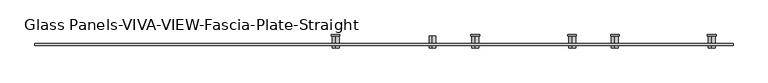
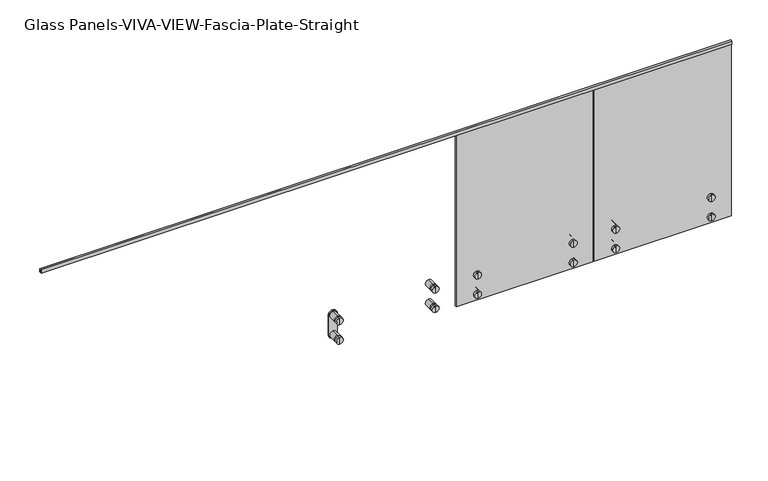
"""IFC4 building model written with IfcOpenShell, lengths in millimetres: railing geometry, Glass Panels-VIVA-VIEW-Fascia-Plate-Straight."""

from ifc_helpers import new_model, si_unit, point, frame, frame_2d, origin, place, context, project, spatial, polyline, circle_curve, trimmed, segment, composite_curve, outline, extrude, source, transform, mapped, element, save
from ifc_brep_helpers import plane_surface, cylinder_surface, advanced_brep


def glass_panels_viva_view_fascia_plate_straight_96c94eb8(model_context):
    return source(origin(), model_context, "Body", "SolidModel", [
        extrude(outline(polyline([(-11437.3344585, 4140.2), (-11437.3344585, 4114.8), (-11438.9219585, 4114.8), (-11438.9219585, 4138.6125), (-11451.6219585, 4138.6125), (-11451.6219585, 4114.8), (-11453.2094585, 4114.8), (-11453.2094585, 4140.2), (-11437.3344585, 4140.2)])), frame((37756.3266433, 0.0, 0.0), z_axis=(1.0, 0.0, 0.0), x_axis=(0.0, 1.0, 0.0)), (0.0, 0.0, 1.0), 5130.8),
        advanced_brep(
        [(42018.8296899, -11469.0841646, 2794.0), (42018.8296899, -11469.0841646, 2844.8), (42018.8296899, -11469.0841646, 2819.4), (42018.8296899, -11451.6216646, 2794.0), (42018.8296899, -11451.6216646, 2844.8), (42018.8296899, -11451.6216646, 2813.685), (42018.8296899, -11451.6216646, 2825.115), (42018.8296899, -11438.9216646, 2813.685), (42018.8296899, -11438.9216646, 2825.115), (42018.8296899, -11438.9216646, 2794.0), (42018.8296899, -11438.9216646, 2844.8), (42018.8296899, -11381.7718115, 2794.0), (42018.8296899, -11381.7718115, 2844.8), (42018.8296899, -11381.7718115, 2819.4)],
        [
            (0, 1, circle_curve(frame((42018.8296899, -11469.0841646, 2819.4), z_axis=(0.0, -1.0, 0.0), x_axis=(0.0, 0.0, 1.0)), 25.4)),
            (1, 2),
            (2, 0),
            (1, 0, circle_curve(frame((42018.8296899, -11469.0841646, 2819.4), z_axis=(0.0, -1.0, 0.0), x_axis=(0.0, 0.0, 1.0)), 25.4)),
            (3, 4, circle_curve(frame((42018.8296899, -11451.6216646, 2819.4), z_axis=(0.0, -1.0, 0.0), x_axis=(0.0, 0.0, 1.0)), 25.4)),
            (4, 1),
            (0, 3),
            (4, 3, circle_curve(frame((42018.8296899, -11451.6216646, 2819.4), z_axis=(0.0, -1.0, 0.0), x_axis=(0.0, 0.0, 1.0)), 25.4)),
            (5, 6, circle_curve(frame((42018.8296899, -11451.6216646, 2819.4), z_axis=(0.0, -1.0, 0.0), x_axis=(0.0, 0.0, 1.0)), 5.715)),
            (6, 4),
            (3, 5),
            (6, 5, circle_curve(frame((42018.8296899, -11451.6216646, 2819.4), z_axis=(0.0, -1.0, 0.0), x_axis=(0.0, 0.0, 1.0)), 5.715)),
            (7, 8, circle_curve(frame((42018.8296899, -11438.9216646, 2819.4), z_axis=(0.0, -1.0, 0.0), x_axis=(0.0, 0.0, 1.0)), 5.715)),
            (8, 6),
            (5, 7),
            (8, 7, circle_curve(frame((42018.8296899, -11438.9216646, 2819.4), z_axis=(0.0, -1.0, 0.0), x_axis=(0.0, 0.0, 1.0)), 5.715)),
            (9, 10, circle_curve(frame((42018.8296899, -11438.9216646, 2819.4), z_axis=(0.0, -1.0, 0.0), x_axis=(0.0, 0.0, 1.0)), 25.4)),
            (10, 8),
            (7, 9),
            (10, 9, circle_curve(frame((42018.8296899, -11438.9216646, 2819.4), z_axis=(0.0, -1.0, 0.0), x_axis=(0.0, 0.0, 1.0)), 25.4)),
            (11, 12, circle_curve(frame((42018.8296899, -11381.7718115, 2819.4), z_axis=(0.0, -1.0, 0.0), x_axis=(0.0, 0.0, 1.0)), 25.4)),
            (12, 10),
            (9, 11),
            (12, 11, circle_curve(frame((42018.8296899, -11381.7718115, 2819.4), z_axis=(0.0, -1.0, 0.0), x_axis=(0.0, 0.0, 1.0)), 25.4)),
            (13, 12),
            (11, 13),
        ],
        [
            plane_surface(frame((42018.8296899, -11469.0841646, 2819.4), z_axis=(0.0, -1.0, 0.0), x_axis=(0.0, 0.0, 1.0))),
            cylinder_surface(frame((42018.8296899, -11537.3468115, 2819.4), z_axis=(0.0, 1.0, 0.0), x_axis=(0.0, 0.0, 1.0)), 25.4),
            plane_surface(frame((42018.8296899, -11451.6216646, 2819.4), z_axis=(0.0, 1.0, 0.0), x_axis=(0.0, 0.0, 1.0))),
            cylinder_surface(frame((42018.8296899, -11537.3468115, 2819.4), z_axis=(0.0, 1.0, 0.0), x_axis=(0.0, 0.0, 1.0)), 5.715),
            plane_surface(frame((42018.8296899, -11438.9216646, 2819.4), z_axis=(0.0, -1.0, 0.0), x_axis=(0.0, 0.0, 1.0))),
            plane_surface(frame((42018.8296899, -11381.7718115, 2819.4), z_axis=(0.0, 1.0, 0.0), x_axis=(0.0, 0.0, 1.0))),
        ],
        [
            (0, [[1, 2, 3]]),
            (0, [[4, -3, -2]]),
            (1, [[5, 6, -1, 7]]),
            (1, [[8, -7, -4, -6]]),
            (2, [[9, 10, -5, 11]]),
            (2, [[12, -11, -8, -10]]),
            (3, [[13, 14, -9, 15]]),
            (3, [[16, -15, -12, -14]]),
            (4, [[17, 18, -13, 19]]),
            (4, [[20, -19, -16, -18]]),
            (1, [[21, 22, -17, 23]]),
            (1, [[24, -23, -20, -22]]),
            (5, [[25, -21, 26]]),
            (5, [[-26, -24, -25]]),
        ],
    ),
        advanced_brep(
        [(42018.8296899, -11451.6216646, 2966.085), (42018.8296899, -11451.6216646, 2977.515), (42018.8296899, -11451.6216646, 2997.2), (42018.8296899, -11451.6216646, 2946.4), (42018.8296899, -11438.9216646, 2966.085), (42018.8296899, -11438.9216646, 2977.515), (42018.8296899, -11438.9216646, 2946.4), (42018.8296899, -11438.9216646, 2997.2), (42018.8296899, -11381.7718115, 2946.4), (42018.8296899, -11381.7718115, 2997.2), (42018.8296899, -11381.7718115, 2971.8), (42018.8296899, -11469.0841646, 2946.4), (42018.8296899, -11469.0841646, 2997.2), (42018.8296899, -11469.0841646, 2971.8)],
        [
            (0, 1, circle_curve(frame((42018.8296899, -11451.6216646, 2971.8), z_axis=(0.0, -1.0, 0.0), x_axis=(0.0, 0.0, 1.0)), 5.715)),
            (1, 2),
            (2, 3, circle_curve(frame((42018.8296899, -11451.6216646, 2971.8), z_axis=(0.0, 1.0, 0.0), x_axis=(0.0, 0.0, 1.0)), 25.4)),
            (3, 0),
            (1, 0, circle_curve(frame((42018.8296899, -11451.6216646, 2971.8), z_axis=(0.0, -1.0, 0.0), x_axis=(0.0, 0.0, 1.0)), 5.715)),
            (3, 2, circle_curve(frame((42018.8296899, -11451.6216646, 2971.8), z_axis=(0.0, 1.0, 0.0), x_axis=(0.0, 0.0, 1.0)), 25.4)),
            (4, 5, circle_curve(frame((42018.8296899, -11438.9216646, 2971.8), z_axis=(0.0, -1.0, 0.0), x_axis=(0.0, 0.0, 1.0)), 5.715)),
            (5, 1),
            (0, 4),
            (5, 4, circle_curve(frame((42018.8296899, -11438.9216646, 2971.8), z_axis=(0.0, -1.0, 0.0), x_axis=(0.0, 0.0, 1.0)), 5.715)),
            (6, 7, circle_curve(frame((42018.8296899, -11438.9216646, 2971.8), z_axis=(0.0, -1.0, 0.0), x_axis=(0.0, 0.0, 1.0)), 25.4)),
            (7, 5),
            (4, 6),
            (7, 6, circle_curve(frame((42018.8296899, -11438.9216646, 2971.8), z_axis=(0.0, -1.0, 0.0), x_axis=(0.0, 0.0, 1.0)), 25.4)),
            (8, 9, circle_curve(frame((42018.8296899, -11381.7718115, 2971.8), z_axis=(0.0, -1.0, 0.0), x_axis=(0.0, 0.0, 1.0)), 25.4)),
            (9, 7),
            (6, 8),
            (9, 8, circle_curve(frame((42018.8296899, -11381.7718115, 2971.8), z_axis=(0.0, -1.0, 0.0), x_axis=(0.0, 0.0, 1.0)), 25.4)),
            (10, 9),
            (8, 10),
            (11, 12, circle_curve(frame((42018.8296899, -11469.0841646, 2971.8), z_axis=(0.0, -1.0, 0.0), x_axis=(0.0, 0.0, 1.0)), 25.4)),
            (12, 13),
            (13, 11),
            (12, 11, circle_curve(frame((42018.8296899, -11469.0841646, 2971.8), z_axis=(0.0, -1.0, 0.0), x_axis=(0.0, 0.0, 1.0)), 25.4)),
            (2, 12),
            (11, 3),
        ],
        [
            plane_surface(frame((42018.8296899, -11451.6216646, 2971.8), z_axis=(0.0, 1.0, 0.0), x_axis=(0.0, 0.0, 1.0))),
            cylinder_surface(frame((42018.8296899, -11537.3468115, 2971.8), z_axis=(0.0, 1.0, 0.0), x_axis=(0.0, 0.0, 1.0)), 5.715),
            plane_surface(frame((42018.8296899, -11438.9216646, 2971.8), z_axis=(0.0, -1.0, 0.0), x_axis=(0.0, 0.0, 1.0))),
            cylinder_surface(frame((42018.8296899, -11537.3468115, 2971.8), z_axis=(0.0, 1.0, 0.0), x_axis=(0.0, 0.0, 1.0)), 25.4),
            plane_surface(frame((42018.8296899, -11381.7718115, 2971.8), z_axis=(0.0, 1.0, 0.0), x_axis=(0.0, 0.0, 1.0))),
            plane_surface(frame((42018.8296899, -11469.0841646, 2971.8), z_axis=(0.0, -1.0, 0.0), x_axis=(0.0, 0.0, 1.0))),
        ],
        [
            (0, [[1, 2, 3, 4]]),
            (0, [[5, -4, 6, -2]]),
            (1, [[7, 8, -1, 9]]),
            (1, [[10, -9, -5, -8]]),
            (2, [[11, 12, -7, 13]]),
            (2, [[14, -13, -10, -12]]),
            (3, [[15, 16, -11, 17]]),
            (3, [[18, -17, -14, -16]]),
            (4, [[19, -15, 20]]),
            (4, [[-20, -18, -19]]),
            (5, [[21, 22, 23]]),
            (5, [[24, -23, -22]]),
            (3, [[-3, 25, -21, 26]]),
            (3, [[-6, -26, -24, -25]]),
        ],
    ),
        extrude(outline(composite_curve([segment(polyline([(2971.8, 41987.0796899), (2819.4, 41987.0796899)]), True, "CONTINUOUS"), segment(trimmed(circle_curve(frame_2d((2819.4, 42018.8296899)), 31.75), [point((2819.4, 41987.0796899))], [point((2819.4, 42050.5796899))], False, "CARTESIAN"), True, "CONTINUOUS"), segment(polyline([(2819.4, 42050.5796899), (2971.8, 42050.5796899)]), True, "CONTINUOUS"), segment(trimmed(circle_curve(frame_2d((2971.8, 42018.8296899)), 31.75), [point((2971.8, 42050.5796899))], [point((2971.8, 41987.0796899))], False, "CARTESIAN"), True, "CONTINUOUS")], self_intersect=False)), frame((0.0, -11381.7718115, 0.0), z_axis=(0.0, 1.0, 0.0), x_axis=(0.0, 0.0, 1.0)), (0.0, 0.0, 1.0), 9.525),
        advanced_brep(
        [(42730.0296899, -11469.0841646, 2794.0), (42730.0296899, -11469.0841646, 2844.8), (42730.0296899, -11469.0841646, 2819.4), (42730.0296899, -11451.6216646, 2794.0), (42730.0296899, -11451.6216646, 2844.8), (42730.0296899, -11451.6216646, 2813.685), (42730.0296899, -11451.6216646, 2825.115), (42730.0296899, -11438.9216646, 2813.685), (42730.0296899, -11438.9216646, 2825.115), (42730.0296899, -11438.9216646, 2794.0), (42730.0296899, -11438.9216646, 2844.8), (42730.0296899, -11381.7718115, 2794.0), (42730.0296899, -11381.7718115, 2844.8), (42730.0296899, -11381.7718115, 2819.4)],
        [
            (0, 1, circle_curve(frame((42730.0296899, -11469.0841646, 2819.4), z_axis=(0.0, -1.0, 0.0), x_axis=(0.0, 0.0, 1.0)), 25.4)),
            (1, 2),
            (2, 0),
            (1, 0, circle_curve(frame((42730.0296899, -11469.0841646, 2819.4), z_axis=(0.0, -1.0, 0.0), x_axis=(0.0, 0.0, 1.0)), 25.4)),
            (3, 4, circle_curve(frame((42730.0296899, -11451.6216646, 2819.4), z_axis=(0.0, -1.0, 0.0), x_axis=(0.0, 0.0, 1.0)), 25.4)),
            (4, 1),
            (0, 3),
            (4, 3, circle_curve(frame((42730.0296899, -11451.6216646, 2819.4), z_axis=(0.0, -1.0, 0.0), x_axis=(0.0, 0.0, 1.0)), 25.4)),
            (5, 6, circle_curve(frame((42730.0296899, -11451.6216646, 2819.4), z_axis=(0.0, -1.0, 0.0), x_axis=(0.0, 0.0, 1.0)), 5.715)),
            (6, 4),
            (3, 5),
            (6, 5, circle_curve(frame((42730.0296899, -11451.6216646, 2819.4), z_axis=(0.0, -1.0, 0.0), x_axis=(0.0, 0.0, 1.0)), 5.715)),
            (7, 8, circle_curve(frame((42730.0296899, -11438.9216646, 2819.4), z_axis=(0.0, -1.0, 0.0), x_axis=(0.0, 0.0, 1.0)), 5.715)),
            (8, 6),
            (5, 7),
            (8, 7, circle_curve(frame((42730.0296899, -11438.9216646, 2819.4), z_axis=(0.0, -1.0, 0.0), x_axis=(0.0, 0.0, 1.0)), 5.715)),
            (9, 10, circle_curve(frame((42730.0296899, -11438.9216646, 2819.4), z_axis=(0.0, -1.0, 0.0), x_axis=(0.0, 0.0, 1.0)), 25.4)),
            (10, 8),
            (7, 9),
            (10, 9, circle_curve(frame((42730.0296899, -11438.9216646, 2819.4), z_axis=(0.0, -1.0, 0.0), x_axis=(0.0, 0.0, 1.0)), 25.4)),
            (11, 12, circle_curve(frame((42730.0296899, -11381.7718115, 2819.4), z_axis=(0.0, -1.0, 0.0), x_axis=(0.0, 0.0, 1.0)), 25.4)),
            (12, 10),
            (9, 11),
            (12, 11, circle_curve(frame((42730.0296899, -11381.7718115, 2819.4), z_axis=(0.0, -1.0, 0.0), x_axis=(0.0, 0.0, 1.0)), 25.4)),
            (13, 12),
            (11, 13),
        ],
        [
            plane_surface(frame((42730.0296899, -11469.0841646, 2819.4), z_axis=(0.0, -1.0, 0.0), x_axis=(0.0, 0.0, 1.0))),
            cylinder_surface(frame((42730.0296899, -11537.3468115, 2819.4), z_axis=(0.0, 1.0, 0.0), x_axis=(0.0, 0.0, 1.0)), 25.4),
            plane_surface(frame((42730.0296899, -11451.6216646, 2819.4), z_axis=(0.0, 1.0, 0.0), x_axis=(0.0, 0.0, 1.0))),
            cylinder_surface(frame((42730.0296899, -11537.3468115, 2819.4), z_axis=(0.0, 1.0, 0.0), x_axis=(0.0, 0.0, 1.0)), 5.715),
            plane_surface(frame((42730.0296899, -11438.9216646, 2819.4), z_axis=(0.0, -1.0, 0.0), x_axis=(0.0, 0.0, 1.0))),
            plane_surface(frame((42730.0296899, -11381.7718115, 2819.4), z_axis=(0.0, 1.0, 0.0), x_axis=(0.0, 0.0, 1.0))),
        ],
        [
            (0, [[1, 2, 3]]),
            (0, [[4, -3, -2]]),
            (1, [[5, 6, -1, 7]]),
            (1, [[8, -7, -4, -6]]),
            (2, [[9, 10, -5, 11]]),
            (2, [[12, -11, -8, -10]]),
            (3, [[13, 14, -9, 15]]),
            (3, [[16, -15, -12, -14]]),
            (4, [[17, 18, -13, 19]]),
            (4, [[20, -19, -16, -18]]),
            (1, [[21, 22, -17, 23]]),
            (1, [[24, -23, -20, -22]]),
            (5, [[25, -21, 26]]),
            (5, [[-26, -24, -25]]),
        ],
    ),
        advanced_brep(
        [(42730.0296899, -11451.6216646, 2966.085), (42730.0296899, -11451.6216646, 2977.515), (42730.0296899, -11451.6216646, 2997.2), (42730.0296899, -11451.6216646, 2946.4), (42730.0296899, -11438.9216646, 2966.085), (42730.0296899, -11438.9216646, 2977.515), (42730.0296899, -11438.9216646, 2946.4), (42730.0296899, -11438.9216646, 2997.2), (42730.0296899, -11381.7718115, 2946.4), (42730.0296899, -11381.7718115, 2997.2), (42730.0296899, -11381.7718115, 2971.8), (42730.0296899, -11469.0841646, 2946.4), (42730.0296899, -11469.0841646, 2997.2), (42730.0296899, -11469.0841646, 2971.8)],
        [
            (0, 1, circle_curve(frame((42730.0296899, -11451.6216646, 2971.8), z_axis=(0.0, -1.0, 0.0), x_axis=(0.0, 0.0, 1.0)), 5.715)),
            (1, 2),
            (2, 3, circle_curve(frame((42730.0296899, -11451.6216646, 2971.8), z_axis=(0.0, 1.0, 0.0), x_axis=(0.0, 0.0, 1.0)), 25.4)),
            (3, 0),
            (1, 0, circle_curve(frame((42730.0296899, -11451.6216646, 2971.8), z_axis=(0.0, -1.0, 0.0), x_axis=(0.0, 0.0, 1.0)), 5.715)),
            (3, 2, circle_curve(frame((42730.0296899, -11451.6216646, 2971.8), z_axis=(0.0, 1.0, 0.0), x_axis=(0.0, 0.0, 1.0)), 25.4)),
            (4, 5, circle_curve(frame((42730.0296899, -11438.9216646, 2971.8), z_axis=(0.0, -1.0, 0.0), x_axis=(0.0, 0.0, 1.0)), 5.715)),
            (5, 1),
            (0, 4),
            (5, 4, circle_curve(frame((42730.0296899, -11438.9216646, 2971.8), z_axis=(0.0, -1.0, 0.0), x_axis=(0.0, 0.0, 1.0)), 5.715)),
            (6, 7, circle_curve(frame((42730.0296899, -11438.9216646, 2971.8), z_axis=(0.0, -1.0, 0.0), x_axis=(0.0, 0.0, 1.0)), 25.4)),
            (7, 5),
            (4, 6),
            (7, 6, circle_curve(frame((42730.0296899, -11438.9216646, 2971.8), z_axis=(0.0, -1.0, 0.0), x_axis=(0.0, 0.0, 1.0)), 25.4)),
            (8, 9, circle_curve(frame((42730.0296899, -11381.7718115, 2971.8), z_axis=(0.0, -1.0, 0.0), x_axis=(0.0, 0.0, 1.0)), 25.4)),
            (9, 7),
            (6, 8),
            (9, 8, circle_curve(frame((42730.0296899, -11381.7718115, 2971.8), z_axis=(0.0, -1.0, 0.0), x_axis=(0.0, 0.0, 1.0)), 25.4)),
            (10, 9),
            (8, 10),
            (11, 12, circle_curve(frame((42730.0296899, -11469.0841646, 2971.8), z_axis=(0.0, -1.0, 0.0), x_axis=(0.0, 0.0, 1.0)), 25.4)),
            (12, 13),
            (13, 11),
            (12, 11, circle_curve(frame((42730.0296899, -11469.0841646, 2971.8), z_axis=(0.0, -1.0, 0.0), x_axis=(0.0, 0.0, 1.0)), 25.4)),
            (2, 12),
            (11, 3),
        ],
        [
            plane_surface(frame((42730.0296899, -11451.6216646, 2971.8), z_axis=(0.0, 1.0, 0.0), x_axis=(0.0, 0.0, 1.0))),
            cylinder_surface(frame((42730.0296899, -11537.3468115, 2971.8), z_axis=(0.0, 1.0, 0.0), x_axis=(0.0, 0.0, 1.0)), 5.715),
            plane_surface(frame((42730.0296899, -11438.9216646, 2971.8), z_axis=(0.0, -1.0, 0.0), x_axis=(0.0, 0.0, 1.0))),
            cylinder_surface(frame((42730.0296899, -11537.3468115, 2971.8), z_axis=(0.0, 1.0, 0.0), x_axis=(0.0, 0.0, 1.0)), 25.4),
            plane_surface(frame((42730.0296899, -11381.7718115, 2971.8), z_axis=(0.0, 1.0, 0.0), x_axis=(0.0, 0.0, 1.0))),
            plane_surface(frame((42730.0296899, -11469.0841646, 2971.8), z_axis=(0.0, -1.0, 0.0), x_axis=(0.0, 0.0, 1.0))),
        ],
        [
            (0, [[1, 2, 3, 4]]),
            (0, [[5, -4, 6, -2]]),
            (1, [[7, 8, -1, 9]]),
            (1, [[10, -9, -5, -8]]),
            (2, [[11, 12, -7, 13]]),
            (2, [[14, -13, -10, -12]]),
            (3, [[15, 16, -11, 17]]),
            (3, [[18, -17, -14, -16]]),
            (4, [[19, -15, 20]]),
            (4, [[-20, -18, -19]]),
            (5, [[21, 22, 23]]),
            (5, [[24, -23, -22]]),
            (3, [[-3, 25, -21, 26]]),
            (3, [[-6, -26, -24, -25]]),
        ],
    ),
        extrude(outline(composite_curve([segment(polyline([(2971.8, 42698.2796899), (2819.4, 42698.2796899)]), True, "CONTINUOUS"), segment(trimmed(circle_curve(frame_2d((2819.4, 42730.0296899)), 31.75), [point((2819.4, 42698.2796899))], [point((2819.4, 42761.7796899))], False, "CARTESIAN"), True, "CONTINUOUS"), segment(polyline([(2819.4, 42761.7796899), (2971.8, 42761.7796899)]), True, "CONTINUOUS"), segment(trimmed(circle_curve(frame_2d((2971.8, 42730.0296899)), 31.75), [point((2971.8, 42761.7796899))], [point((2971.8, 42698.2796899))], False, "CARTESIAN"), True, "CONTINUOUS")], self_intersect=False)), frame((0.0, -11381.7718115, 0.0), z_axis=(0.0, 1.0, 0.0), x_axis=(0.0, 0.0, 1.0)), (0.0, 0.0, 1.0), 9.525),
        extrude(outline(polyline([(41866.4296899, -11438.9219585), (42882.4296899, -11438.9219585), (42882.4296899, -11451.6219585), (41866.4296899, -11451.6219585), (41866.4296899, -11438.9219585)])), frame((0.0, 0.0, 2768.6), z_axis=(0.0, 0.0, 1.0), x_axis=(1.0, 0.0, 0.0)), (0.0, 0.0, 1.0), 1370.0125),
        advanced_brep(
        [(40992.6696899, -11469.0841646, 2794.0), (40992.6696899, -11469.0841646, 2844.8), (40992.6696899, -11469.0841646, 2819.4), (40992.6696899, -11451.6216646, 2794.0), (40992.6696899, -11451.6216646, 2844.8), (40992.6696899, -11451.6216646, 2813.685), (40992.6696899, -11451.6216646, 2825.115), (40992.6696899, -11438.9216646, 2813.685), (40992.6696899, -11438.9216646, 2825.115), (40992.6696899, -11438.9216646, 2794.0), (40992.6696899, -11438.9216646, 2844.8), (40992.6696899, -11381.7718115, 2794.0), (40992.6696899, -11381.7718115, 2844.8), (40992.6696899, -11381.7718115, 2819.4)],
        [
            (0, 1, circle_curve(frame((40992.6696899, -11469.0841646, 2819.4), z_axis=(0.0, -1.0, 0.0), x_axis=(0.0, 0.0, 1.0)), 25.4)),
            (1, 2),
            (2, 0),
            (1, 0, circle_curve(frame((40992.6696899, -11469.0841646, 2819.4), z_axis=(0.0, -1.0, 0.0), x_axis=(0.0, 0.0, 1.0)), 25.4)),
            (3, 4, circle_curve(frame((40992.6696899, -11451.6216646, 2819.4), z_axis=(0.0, -1.0, 0.0), x_axis=(0.0, 0.0, 1.0)), 25.4)),
            (4, 1),
            (0, 3),
            (4, 3, circle_curve(frame((40992.6696899, -11451.6216646, 2819.4), z_axis=(0.0, -1.0, 0.0), x_axis=(0.0, 0.0, 1.0)), 25.4)),
            (5, 6, circle_curve(frame((40992.6696899, -11451.6216646, 2819.4), z_axis=(0.0, -1.0, 0.0), x_axis=(0.0, 0.0, 1.0)), 5.715)),
            (6, 4),
            (3, 5),
            (6, 5, circle_curve(frame((40992.6696899, -11451.6216646, 2819.4), z_axis=(0.0, -1.0, 0.0), x_axis=(0.0, 0.0, 1.0)), 5.715)),
            (7, 8, circle_curve(frame((40992.6696899, -11438.9216646, 2819.4), z_axis=(0.0, -1.0, 0.0), x_axis=(0.0, 0.0, 1.0)), 5.715)),
            (8, 6),
            (5, 7),
            (8, 7, circle_curve(frame((40992.6696899, -11438.9216646, 2819.4), z_axis=(0.0, -1.0, 0.0), x_axis=(0.0, 0.0, 1.0)), 5.715)),
            (9, 10, circle_curve(frame((40992.6696899, -11438.9216646, 2819.4), z_axis=(0.0, -1.0, 0.0), x_axis=(0.0, 0.0, 1.0)), 25.4)),
            (10, 8),
            (7, 9),
            (10, 9, circle_curve(frame((40992.6696899, -11438.9216646, 2819.4), z_axis=(0.0, -1.0, 0.0), x_axis=(0.0, 0.0, 1.0)), 25.4)),
            (11, 12, circle_curve(frame((40992.6696899, -11381.7718115, 2819.4), z_axis=(0.0, -1.0, 0.0), x_axis=(0.0, 0.0, 1.0)), 25.4)),
            (12, 10),
            (9, 11),
            (12, 11, circle_curve(frame((40992.6696899, -11381.7718115, 2819.4), z_axis=(0.0, -1.0, 0.0), x_axis=(0.0, 0.0, 1.0)), 25.4)),
            (13, 12),
            (11, 13),
        ],
        [
            plane_surface(frame((40992.6696899, -11469.0841646, 2819.4), z_axis=(0.0, -1.0, 0.0), x_axis=(0.0, 0.0, 1.0))),
            cylinder_surface(frame((40992.6696899, -11537.3468115, 2819.4), z_axis=(0.0, 1.0, 0.0), x_axis=(0.0, 0.0, 1.0)), 25.4),
            plane_surface(frame((40992.6696899, -11451.6216646, 2819.4), z_axis=(0.0, 1.0, 0.0), x_axis=(0.0, 0.0, 1.0))),
            cylinder_surface(frame((40992.6696899, -11537.3468115, 2819.4), z_axis=(0.0, 1.0, 0.0), x_axis=(0.0, 0.0, 1.0)), 5.715),
            plane_surface(frame((40992.6696899, -11438.9216646, 2819.4), z_axis=(0.0, -1.0, 0.0), x_axis=(0.0, 0.0, 1.0))),
            plane_surface(frame((40992.6696899, -11381.7718115, 2819.4), z_axis=(0.0, 1.0, 0.0), x_axis=(0.0, 0.0, 1.0))),
        ],
        [
            (0, [[1, 2, 3]]),
            (0, [[4, -3, -2]]),
            (1, [[5, 6, -1, 7]]),
            (1, [[8, -7, -4, -6]]),
            (2, [[9, 10, -5, 11]]),
            (2, [[12, -11, -8, -10]]),
            (3, [[13, 14, -9, 15]]),
            (3, [[16, -15, -12, -14]]),
            (4, [[17, 18, -13, 19]]),
            (4, [[20, -19, -16, -18]]),
            (1, [[21, 22, -17, 23]]),
            (1, [[24, -23, -20, -22]]),
            (5, [[25, -21, 26]]),
            (5, [[-26, -24, -25]]),
        ],
    ),
        advanced_brep(
        [(40992.6696899, -11451.6216646, 2966.085), (40992.6696899, -11451.6216646, 2977.515), (40992.6696899, -11451.6216646, 2997.2), (40992.6696899, -11451.6216646, 2946.4), (40992.6696899, -11438.9216646, 2966.085), (40992.6696899, -11438.9216646, 2977.515), (40992.6696899, -11438.9216646, 2946.4), (40992.6696899, -11438.9216646, 2997.2), (40992.6696899, -11381.7718115, 2946.4), (40992.6696899, -11381.7718115, 2997.2), (40992.6696899, -11381.7718115, 2971.8), (40992.6696899, -11469.0841646, 2946.4), (40992.6696899, -11469.0841646, 2997.2), (40992.6696899, -11469.0841646, 2971.8)],
        [
            (0, 1, circle_curve(frame((40992.6696899, -11451.6216646, 2971.8), z_axis=(0.0, -1.0, 0.0), x_axis=(0.0, 0.0, 1.0)), 5.715)),
            (1, 2),
            (2, 3, circle_curve(frame((40992.6696899, -11451.6216646, 2971.8), z_axis=(0.0, 1.0, 0.0), x_axis=(0.0, 0.0, 1.0)), 25.4)),
            (3, 0),
            (1, 0, circle_curve(frame((40992.6696899, -11451.6216646, 2971.8), z_axis=(0.0, -1.0, 0.0), x_axis=(0.0, 0.0, 1.0)), 5.715)),
            (3, 2, circle_curve(frame((40992.6696899, -11451.6216646, 2971.8), z_axis=(0.0, 1.0, 0.0), x_axis=(0.0, 0.0, 1.0)), 25.4)),
            (4, 5, circle_curve(frame((40992.6696899, -11438.9216646, 2971.8), z_axis=(0.0, -1.0, 0.0), x_axis=(0.0, 0.0, 1.0)), 5.715)),
            (5, 1),
            (0, 4),
            (5, 4, circle_curve(frame((40992.6696899, -11438.9216646, 2971.8), z_axis=(0.0, -1.0, 0.0), x_axis=(0.0, 0.0, 1.0)), 5.715)),
            (6, 7, circle_curve(frame((40992.6696899, -11438.9216646, 2971.8), z_axis=(0.0, -1.0, 0.0), x_axis=(0.0, 0.0, 1.0)), 25.4)),
            (7, 5),
            (4, 6),
            (7, 6, circle_curve(frame((40992.6696899, -11438.9216646, 2971.8), z_axis=(0.0, -1.0, 0.0), x_axis=(0.0, 0.0, 1.0)), 25.4)),
            (8, 9, circle_curve(frame((40992.6696899, -11381.7718115, 2971.8), z_axis=(0.0, -1.0, 0.0), x_axis=(0.0, 0.0, 1.0)), 25.4)),
            (9, 7),
            (6, 8),
            (9, 8, circle_curve(frame((40992.6696899, -11381.7718115, 2971.8), z_axis=(0.0, -1.0, 0.0), x_axis=(0.0, 0.0, 1.0)), 25.4)),
            (10, 9),
            (8, 10),
            (11, 12, circle_curve(frame((40992.6696899, -11469.0841646, 2971.8), z_axis=(0.0, -1.0, 0.0), x_axis=(0.0, 0.0, 1.0)), 25.4)),
            (12, 13),
            (13, 11),
            (12, 11, circle_curve(frame((40992.6696899, -11469.0841646, 2971.8), z_axis=(0.0, -1.0, 0.0), x_axis=(0.0, 0.0, 1.0)), 25.4)),
            (2, 12),
            (11, 3),
        ],
        [
            plane_surface(frame((40992.6696899, -11451.6216646, 2971.8), z_axis=(0.0, 1.0, 0.0), x_axis=(0.0, 0.0, 1.0))),
            cylinder_surface(frame((40992.6696899, -11537.3468115, 2971.8), z_axis=(0.0, 1.0, 0.0), x_axis=(0.0, 0.0, 1.0)), 5.715),
            plane_surface(frame((40992.6696899, -11438.9216646, 2971.8), z_axis=(0.0, -1.0, 0.0), x_axis=(0.0, 0.0, 1.0))),
            cylinder_surface(frame((40992.6696899, -11537.3468115, 2971.8), z_axis=(0.0, 1.0, 0.0), x_axis=(0.0, 0.0, 1.0)), 25.4),
            plane_surface(frame((40992.6696899, -11381.7718115, 2971.8), z_axis=(0.0, 1.0, 0.0), x_axis=(0.0, 0.0, 1.0))),
            plane_surface(frame((40992.6696899, -11469.0841646, 2971.8), z_axis=(0.0, -1.0, 0.0), x_axis=(0.0, 0.0, 1.0))),
        ],
        [
            (0, [[1, 2, 3, 4]]),
            (0, [[5, -4, 6, -2]]),
            (1, [[7, 8, -1, 9]]),
            (1, [[10, -9, -5, -8]]),
            (2, [[11, 12, -7, 13]]),
            (2, [[14, -13, -10, -12]]),
            (3, [[15, 16, -11, 17]]),
            (3, [[18, -17, -14, -16]]),
            (4, [[19, -15, 20]]),
            (4, [[-20, -18, -19]]),
            (5, [[21, 22, 23]]),
            (5, [[24, -23, -22]]),
            (3, [[-3, 25, -21, 26]]),
            (3, [[-6, -26, -24, -25]]),
        ],
    ),
        extrude(outline(composite_curve([segment(polyline([(2971.8, 40960.9196899), (2819.4, 40960.9196899)]), True, "CONTINUOUS"), segment(trimmed(circle_curve(frame_2d((2819.4, 40992.6696899)), 31.75), [point((2819.4, 40960.9196899))], [point((2819.4, 41024.4196899))], False, "CARTESIAN"), True, "CONTINUOUS"), segment(polyline([(2819.4, 41024.4196899), (2971.8, 41024.4196899)]), True, "CONTINUOUS"), segment(trimmed(circle_curve(frame_2d((2971.8, 40992.6696899)), 31.75), [point((2971.8, 41024.4196899))], [point((2971.8, 40960.9196899))], False, "CARTESIAN"), True, "CONTINUOUS")], self_intersect=False)), frame((0.0, -11381.7718115, 0.0), z_axis=(0.0, 1.0, 0.0), x_axis=(0.0, 0.0, 1.0)), (0.0, 0.0, 1.0), 9.525),
        advanced_brep(
        [(41703.8696899, -11469.0841646, 2794.0), (41703.8696899, -11469.0841646, 2844.8), (41703.8696899, -11469.0841646, 2819.4), (41703.8696899, -11451.6216646, 2794.0), (41703.8696899, -11451.6216646, 2844.8), (41703.8696899, -11451.6216646, 2813.685), (41703.8696899, -11451.6216646, 2825.115), (41703.8696899, -11438.9216646, 2813.685), (41703.8696899, -11438.9216646, 2825.115), (41703.8696899, -11438.9216646, 2794.0), (41703.8696899, -11438.9216646, 2844.8), (41703.8696899, -11381.7718115, 2794.0), (41703.8696899, -11381.7718115, 2844.8), (41703.8696899, -11381.7718115, 2819.4)],
        [
            (0, 1, circle_curve(frame((41703.8696899, -11469.0841646, 2819.4), z_axis=(0.0, -1.0, 0.0), x_axis=(0.0, 0.0, 1.0)), 25.4)),
            (1, 2),
            (2, 0),
            (1, 0, circle_curve(frame((41703.8696899, -11469.0841646, 2819.4), z_axis=(0.0, -1.0, 0.0), x_axis=(0.0, 0.0, 1.0)), 25.4)),
            (3, 4, circle_curve(frame((41703.8696899, -11451.6216646, 2819.4), z_axis=(0.0, -1.0, 0.0), x_axis=(0.0, 0.0, 1.0)), 25.4)),
            (4, 1),
            (0, 3),
            (4, 3, circle_curve(frame((41703.8696899, -11451.6216646, 2819.4), z_axis=(0.0, -1.0, 0.0), x_axis=(0.0, 0.0, 1.0)), 25.4)),
            (5, 6, circle_curve(frame((41703.8696899, -11451.6216646, 2819.4), z_axis=(0.0, -1.0, 0.0), x_axis=(0.0, 0.0, 1.0)), 5.715)),
            (6, 4),
            (3, 5),
            (6, 5, circle_curve(frame((41703.8696899, -11451.6216646, 2819.4), z_axis=(0.0, -1.0, 0.0), x_axis=(0.0, 0.0, 1.0)), 5.715)),
            (7, 8, circle_curve(frame((41703.8696899, -11438.9216646, 2819.4), z_axis=(0.0, -1.0, 0.0), x_axis=(0.0, 0.0, 1.0)), 5.715)),
            (8, 6),
            (5, 7),
            (8, 7, circle_curve(frame((41703.8696899, -11438.9216646, 2819.4), z_axis=(0.0, -1.0, 0.0), x_axis=(0.0, 0.0, 1.0)), 5.715)),
            (9, 10, circle_curve(frame((41703.8696899, -11438.9216646, 2819.4), z_axis=(0.0, -1.0, 0.0), x_axis=(0.0, 0.0, 1.0)), 25.4)),
            (10, 8),
            (7, 9),
            (10, 9, circle_curve(frame((41703.8696899, -11438.9216646, 2819.4), z_axis=(0.0, -1.0, 0.0), x_axis=(0.0, 0.0, 1.0)), 25.4)),
            (11, 12, circle_curve(frame((41703.8696899, -11381.7718115, 2819.4), z_axis=(0.0, -1.0, 0.0), x_axis=(0.0, 0.0, 1.0)), 25.4)),
            (12, 10),
            (9, 11),
            (12, 11, circle_curve(frame((41703.8696899, -11381.7718115, 2819.4), z_axis=(0.0, -1.0, 0.0), x_axis=(0.0, 0.0, 1.0)), 25.4)),
            (13, 12),
            (11, 13),
        ],
        [
            plane_surface(frame((41703.8696899, -11469.0841646, 2819.4), z_axis=(0.0, -1.0, 0.0), x_axis=(0.0, 0.0, 1.0))),
            cylinder_surface(frame((41703.8696899, -11537.3468115, 2819.4), z_axis=(0.0, 1.0, 0.0), x_axis=(0.0, 0.0, 1.0)), 25.4),
            plane_surface(frame((41703.8696899, -11451.6216646, 2819.4), z_axis=(0.0, 1.0, 0.0), x_axis=(0.0, 0.0, 1.0))),
            cylinder_surface(frame((41703.8696899, -11537.3468115, 2819.4), z_axis=(0.0, 1.0, 0.0), x_axis=(0.0, 0.0, 1.0)), 5.715),
            plane_surface(frame((41703.8696899, -11438.9216646, 2819.4), z_axis=(0.0, -1.0, 0.0), x_axis=(0.0, 0.0, 1.0))),
            plane_surface(frame((41703.8696899, -11381.7718115, 2819.4), z_axis=(0.0, 1.0, 0.0), x_axis=(0.0, 0.0, 1.0))),
        ],
        [
            (0, [[1, 2, 3]]),
            (0, [[4, -3, -2]]),
            (1, [[5, 6, -1, 7]]),
            (1, [[8, -7, -4, -6]]),
            (2, [[9, 10, -5, 11]]),
            (2, [[12, -11, -8, -10]]),
            (3, [[13, 14, -9, 15]]),
            (3, [[16, -15, -12, -14]]),
            (4, [[17, 18, -13, 19]]),
            (4, [[20, -19, -16, -18]]),
            (1, [[21, 22, -17, 23]]),
            (1, [[24, -23, -20, -22]]),
            (5, [[25, -21, 26]]),
            (5, [[-26, -24, -25]]),
        ],
    ),
        advanced_brep(
        [(41703.8696899, -11451.6216646, 2966.085), (41703.8696899, -11451.6216646, 2977.515), (41703.8696899, -11451.6216646, 2997.2), (41703.8696899, -11451.6216646, 2946.4), (41703.8696899, -11438.9216646, 2966.085), (41703.8696899, -11438.9216646, 2977.515), (41703.8696899, -11438.9216646, 2946.4), (41703.8696899, -11438.9216646, 2997.2), (41703.8696899, -11381.7718115, 2946.4), (41703.8696899, -11381.7718115, 2997.2), (41703.8696899, -11381.7718115, 2971.8), (41703.8696899, -11469.0841646, 2946.4), (41703.8696899, -11469.0841646, 2997.2), (41703.8696899, -11469.0841646, 2971.8)],
        [
            (0, 1, circle_curve(frame((41703.8696899, -11451.6216646, 2971.8), z_axis=(0.0, -1.0, 0.0), x_axis=(0.0, 0.0, 1.0)), 5.715)),
            (1, 2),
            (2, 3, circle_curve(frame((41703.8696899, -11451.6216646, 2971.8), z_axis=(0.0, 1.0, 0.0), x_axis=(0.0, 0.0, 1.0)), 25.4)),
            (3, 0),
            (1, 0, circle_curve(frame((41703.8696899, -11451.6216646, 2971.8), z_axis=(0.0, -1.0, 0.0), x_axis=(0.0, 0.0, 1.0)), 5.715)),
            (3, 2, circle_curve(frame((41703.8696899, -11451.6216646, 2971.8), z_axis=(0.0, 1.0, 0.0), x_axis=(0.0, 0.0, 1.0)), 25.4)),
            (4, 5, circle_curve(frame((41703.8696899, -11438.9216646, 2971.8), z_axis=(0.0, -1.0, 0.0), x_axis=(0.0, 0.0, 1.0)), 5.715)),
            (5, 1),
            (0, 4),
            (5, 4, circle_curve(frame((41703.8696899, -11438.9216646, 2971.8), z_axis=(0.0, -1.0, 0.0), x_axis=(0.0, 0.0, 1.0)), 5.715)),
            (6, 7, circle_curve(frame((41703.8696899, -11438.9216646, 2971.8), z_axis=(0.0, -1.0, 0.0), x_axis=(0.0, 0.0, 1.0)), 25.4)),
            (7, 5),
            (4, 6),
            (7, 6, circle_curve(frame((41703.8696899, -11438.9216646, 2971.8), z_axis=(0.0, -1.0, 0.0), x_axis=(0.0, 0.0, 1.0)), 25.4)),
            (8, 9, circle_curve(frame((41703.8696899, -11381.7718115, 2971.8), z_axis=(0.0, -1.0, 0.0), x_axis=(0.0, 0.0, 1.0)), 25.4)),
            (9, 7),
            (6, 8),
            (9, 8, circle_curve(frame((41703.8696899, -11381.7718115, 2971.8), z_axis=(0.0, -1.0, 0.0), x_axis=(0.0, 0.0, 1.0)), 25.4)),
            (10, 9),
            (8, 10),
            (11, 12, circle_curve(frame((41703.8696899, -11469.0841646, 2971.8), z_axis=(0.0, -1.0, 0.0), x_axis=(0.0, 0.0, 1.0)), 25.4)),
            (12, 13),
            (13, 11),
            (12, 11, circle_curve(frame((41703.8696899, -11469.0841646, 2971.8), z_axis=(0.0, -1.0, 0.0), x_axis=(0.0, 0.0, 1.0)), 25.4)),
            (2, 12),
            (11, 3),
        ],
        [
            plane_surface(frame((41703.8696899, -11451.6216646, 2971.8), z_axis=(0.0, 1.0, 0.0), x_axis=(0.0, 0.0, 1.0))),
            cylinder_surface(frame((41703.8696899, -11537.3468115, 2971.8), z_axis=(0.0, 1.0, 0.0), x_axis=(0.0, 0.0, 1.0)), 5.715),
            plane_surface(frame((41703.8696899, -11438.9216646, 2971.8), z_axis=(0.0, -1.0, 0.0), x_axis=(0.0, 0.0, 1.0))),
            cylinder_surface(frame((41703.8696899, -11537.3468115, 2971.8), z_axis=(0.0, 1.0, 0.0), x_axis=(0.0, 0.0, 1.0)), 25.4),
            plane_surface(frame((41703.8696899, -11381.7718115, 2971.8), z_axis=(0.0, 1.0, 0.0), x_axis=(0.0, 0.0, 1.0))),
            plane_surface(frame((41703.8696899, -11469.0841646, 2971.8), z_axis=(0.0, -1.0, 0.0), x_axis=(0.0, 0.0, 1.0))),
        ],
        [
            (0, [[1, 2, 3, 4]]),
            (0, [[5, -4, 6, -2]]),
            (1, [[7, 8, -1, 9]]),
            (1, [[10, -9, -5, -8]]),
            (2, [[11, 12, -7, 13]]),
            (2, [[14, -13, -10, -12]]),
            (3, [[15, 16, -11, 17]]),
            (3, [[18, -17, -14, -16]]),
            (4, [[19, -15, 20]]),
            (4, [[-20, -18, -19]]),
            (5, [[21, 22, 23]]),
            (5, [[24, -23, -22]]),
            (3, [[-3, 25, -21, 26]]),
            (3, [[-6, -26, -24, -25]]),
        ],
    ),
        extrude(outline(composite_curve([segment(polyline([(2971.8, 41672.1196899), (2819.4, 41672.1196899)]), True, "CONTINUOUS"), segment(trimmed(circle_curve(frame_2d((2819.4, 41703.8696899)), 31.75), [point((2819.4, 41672.1196899))], [point((2819.4, 41735.6196899))], False, "CARTESIAN"), True, "CONTINUOUS"), segment(polyline([(2819.4, 41735.6196899), (2971.8, 41735.6196899)]), True, "CONTINUOUS"), segment(trimmed(circle_curve(frame_2d((2971.8, 41703.8696899)), 31.75), [point((2971.8, 41735.6196899))], [point((2971.8, 41672.1196899))], False, "CARTESIAN"), True, "CONTINUOUS")], self_intersect=False)), frame((0.0, -11381.7718115, 0.0), z_axis=(0.0, 1.0, 0.0), x_axis=(0.0, 0.0, 1.0)), (0.0, 0.0, 1.0), 9.525),
        extrude(outline(polyline([(40840.2696899, -11438.9219585), (41856.2696899, -11438.9219585), (41856.2696899, -11451.6219585), (40840.2696899, -11451.6219585), (40840.2696899, -11438.9219585)])), frame((0.0, 0.0, 2768.6), z_axis=(0.0, 0.0, 1.0), x_axis=(1.0, 0.0, 0.0)), (0.0, 0.0, 1.0), 1370.0125),
        advanced_brep(
        [(39966.5096899, -11469.0841646, 2794.0), (39966.5096899, -11469.0841646, 2844.8), (39966.5096899, -11469.0841646, 2819.4), (39966.5096899, -11451.6216646, 2794.0), (39966.5096899, -11451.6216646, 2844.8), (39966.5096899, -11451.6216646, 2813.685), (39966.5096899, -11451.6216646, 2825.115), (39966.5096899, -11438.9216646, 2813.685), (39966.5096899, -11438.9216646, 2825.115), (39966.5096899, -11438.9216646, 2794.0), (39966.5096899, -11438.9216646, 2844.8), (39966.5096899, -11381.7718115, 2794.0), (39966.5096899, -11381.7718115, 2844.8), (39966.5096899, -11381.7718115, 2819.4)],
        [
            (0, 1, circle_curve(frame((39966.5096899, -11469.0841646, 2819.4), z_axis=(0.0, -1.0, 0.0), x_axis=(0.0, 0.0, 1.0)), 25.4)),
            (1, 2),
            (2, 0),
            (1, 0, circle_curve(frame((39966.5096899, -11469.0841646, 2819.4), z_axis=(0.0, -1.0, 0.0), x_axis=(0.0, 0.0, 1.0)), 25.4)),
            (3, 4, circle_curve(frame((39966.5096899, -11451.6216646, 2819.4), z_axis=(0.0, -1.0, 0.0), x_axis=(0.0, 0.0, 1.0)), 25.4)),
            (4, 1),
            (0, 3),
            (4, 3, circle_curve(frame((39966.5096899, -11451.6216646, 2819.4), z_axis=(0.0, -1.0, 0.0), x_axis=(0.0, 0.0, 1.0)), 25.4)),
            (5, 6, circle_curve(frame((39966.5096899, -11451.6216646, 2819.4), z_axis=(0.0, -1.0, 0.0), x_axis=(0.0, 0.0, 1.0)), 5.715)),
            (6, 4),
            (3, 5),
            (6, 5, circle_curve(frame((39966.5096899, -11451.6216646, 2819.4), z_axis=(0.0, -1.0, 0.0), x_axis=(0.0, 0.0, 1.0)), 5.715)),
            (7, 8, circle_curve(frame((39966.5096899, -11438.9216646, 2819.4), z_axis=(0.0, -1.0, 0.0), x_axis=(0.0, 0.0, 1.0)), 5.715)),
            (8, 6),
            (5, 7),
            (8, 7, circle_curve(frame((39966.5096899, -11438.9216646, 2819.4), z_axis=(0.0, -1.0, 0.0), x_axis=(0.0, 0.0, 1.0)), 5.715)),
            (9, 10, circle_curve(frame((39966.5096899, -11438.9216646, 2819.4), z_axis=(0.0, -1.0, 0.0), x_axis=(0.0, 0.0, 1.0)), 25.4)),
            (10, 8),
            (7, 9),
            (10, 9, circle_curve(frame((39966.5096899, -11438.9216646, 2819.4), z_axis=(0.0, -1.0, 0.0), x_axis=(0.0, 0.0, 1.0)), 25.4)),
            (11, 12, circle_curve(frame((39966.5096899, -11381.7718115, 2819.4), z_axis=(0.0, -1.0, 0.0), x_axis=(0.0, 0.0, 1.0)), 25.4)),
            (12, 10),
            (9, 11),
            (12, 11, circle_curve(frame((39966.5096899, -11381.7718115, 2819.4), z_axis=(0.0, -1.0, 0.0), x_axis=(0.0, 0.0, 1.0)), 25.4)),
            (13, 12),
            (11, 13),
        ],
        [
            plane_surface(frame((39966.5096899, -11469.0841646, 2819.4), z_axis=(0.0, -1.0, 0.0), x_axis=(0.0, 0.0, 1.0))),
            cylinder_surface(frame((39966.5096899, -11537.3468115, 2819.4), z_axis=(0.0, 1.0, 0.0), x_axis=(0.0, 0.0, 1.0)), 25.4),
            plane_surface(frame((39966.5096899, -11451.6216646, 2819.4), z_axis=(0.0, 1.0, 0.0), x_axis=(0.0, 0.0, 1.0))),
            cylinder_surface(frame((39966.5096899, -11537.3468115, 2819.4), z_axis=(0.0, 1.0, 0.0), x_axis=(0.0, 0.0, 1.0)), 5.715),
            plane_surface(frame((39966.5096899, -11438.9216646, 2819.4), z_axis=(0.0, -1.0, 0.0), x_axis=(0.0, 0.0, 1.0))),
            plane_surface(frame((39966.5096899, -11381.7718115, 2819.4), z_axis=(0.0, 1.0, 0.0), x_axis=(0.0, 0.0, 1.0))),
        ],
        [
            (0, [[1, 2, 3]]),
            (0, [[4, -3, -2]]),
            (1, [[5, 6, -1, 7]]),
            (1, [[8, -7, -4, -6]]),
            (2, [[9, 10, -5, 11]]),
            (2, [[12, -11, -8, -10]]),
            (3, [[13, 14, -9, 15]]),
            (3, [[16, -15, -12, -14]]),
            (4, [[17, 18, -13, 19]]),
            (4, [[20, -19, -16, -18]]),
            (1, [[21, 22, -17, 23]]),
            (1, [[24, -23, -20, -22]]),
            (5, [[25, -21, 26]]),
            (5, [[-26, -24, -25]]),
        ],
    ),
        advanced_brep(
        [(39966.5096899, -11451.6216646, 2966.085), (39966.5096899, -11451.6216646, 2977.515), (39966.5096899, -11451.6216646, 2997.2), (39966.5096899, -11451.6216646, 2946.4), (39966.5096899, -11438.9216646, 2966.085), (39966.5096899, -11438.9216646, 2977.515), (39966.5096899, -11438.9216646, 2946.4), (39966.5096899, -11438.9216646, 2997.2), (39966.5096899, -11381.7718115, 2946.4), (39966.5096899, -11381.7718115, 2997.2), (39966.5096899, -11381.7718115, 2971.8), (39966.5096899, -11469.0841646, 2946.4), (39966.5096899, -11469.0841646, 2997.2), (39966.5096899, -11469.0841646, 2971.8)],
        [
            (0, 1, circle_curve(frame((39966.5096899, -11451.6216646, 2971.8), z_axis=(0.0, -1.0, 0.0), x_axis=(0.0, 0.0, 1.0)), 5.715)),
            (1, 2),
            (2, 3, circle_curve(frame((39966.5096899, -11451.6216646, 2971.8), z_axis=(0.0, 1.0, 0.0), x_axis=(0.0, 0.0, 1.0)), 25.4)),
            (3, 0),
            (1, 0, circle_curve(frame((39966.5096899, -11451.6216646, 2971.8), z_axis=(0.0, -1.0, 0.0), x_axis=(0.0, 0.0, 1.0)), 5.715)),
            (3, 2, circle_curve(frame((39966.5096899, -11451.6216646, 2971.8), z_axis=(0.0, 1.0, 0.0), x_axis=(0.0, 0.0, 1.0)), 25.4)),
            (4, 5, circle_curve(frame((39966.5096899, -11438.9216646, 2971.8), z_axis=(0.0, -1.0, 0.0), x_axis=(0.0, 0.0, 1.0)), 5.715)),
            (5, 1),
            (0, 4),
            (5, 4, circle_curve(frame((39966.5096899, -11438.9216646, 2971.8), z_axis=(0.0, -1.0, 0.0), x_axis=(0.0, 0.0, 1.0)), 5.715)),
            (6, 7, circle_curve(frame((39966.5096899, -11438.9216646, 2971.8), z_axis=(0.0, -1.0, 0.0), x_axis=(0.0, 0.0, 1.0)), 25.4)),
            (7, 5),
            (4, 6),
            (7, 6, circle_curve(frame((39966.5096899, -11438.9216646, 2971.8), z_axis=(0.0, -1.0, 0.0), x_axis=(0.0, 0.0, 1.0)), 25.4)),
            (8, 9, circle_curve(frame((39966.5096899, -11381.7718115, 2971.8), z_axis=(0.0, -1.0, 0.0), x_axis=(0.0, 0.0, 1.0)), 25.4)),
            (9, 7),
            (6, 8),
            (9, 8, circle_curve(frame((39966.5096899, -11381.7718115, 2971.8), z_axis=(0.0, -1.0, 0.0), x_axis=(0.0, 0.0, 1.0)), 25.4)),
            (10, 9),
            (8, 10),
            (11, 12, circle_curve(frame((39966.5096899, -11469.0841646, 2971.8), z_axis=(0.0, -1.0, 0.0), x_axis=(0.0, 0.0, 1.0)), 25.4)),
            (12, 13),
            (13, 11),
            (12, 11, circle_curve(frame((39966.5096899, -11469.0841646, 2971.8), z_axis=(0.0, -1.0, 0.0), x_axis=(0.0, 0.0, 1.0)), 25.4)),
            (2, 12),
            (11, 3),
        ],
        [
            plane_surface(frame((39966.5096899, -11451.6216646, 2971.8), z_axis=(0.0, 1.0, 0.0), x_axis=(0.0, 0.0, 1.0))),
            cylinder_surface(frame((39966.5096899, -11537.3468115, 2971.8), z_axis=(0.0, 1.0, 0.0), x_axis=(0.0, 0.0, 1.0)), 5.715),
            plane_surface(frame((39966.5096899, -11438.9216646, 2971.8), z_axis=(0.0, -1.0, 0.0), x_axis=(0.0, 0.0, 1.0))),
            cylinder_surface(frame((39966.5096899, -11537.3468115, 2971.8), z_axis=(0.0, 1.0, 0.0), x_axis=(0.0, 0.0, 1.0)), 25.4),
            plane_surface(frame((39966.5096899, -11381.7718115, 2971.8), z_axis=(0.0, 1.0, 0.0), x_axis=(0.0, 0.0, 1.0))),
            plane_surface(frame((39966.5096899, -11469.0841646, 2971.8), z_axis=(0.0, -1.0, 0.0), x_axis=(0.0, 0.0, 1.0))),
        ],
        [
            (0, [[1, 2, 3, 4]]),
            (0, [[5, -4, 6, -2]]),
            (1, [[7, 8, -1, 9]]),
            (1, [[10, -9, -5, -8]]),
            (2, [[11, 12, -7, 13]]),
            (2, [[14, -13, -10, -12]]),
            (3, [[15, 16, -11, 17]]),
            (3, [[18, -17, -14, -16]]),
            (4, [[19, -15, 20]]),
            (4, [[-20, -18, -19]]),
            (5, [[21, 22, 23]]),
            (5, [[24, -23, -22]]),
            (3, [[-3, 25, -21, 26]]),
            (3, [[-6, -26, -24, -25]]),
        ],
    ),
        extrude(outline(composite_curve([segment(polyline([(2971.8, 39934.7596899), (2819.4, 39934.7596899)]), True, "CONTINUOUS"), segment(trimmed(circle_curve(frame_2d((2819.4, 39966.5096899)), 31.75), [point((2819.4, 39934.7596899))], [point((2819.4, 39998.2596899))], False, "CARTESIAN"), True, "CONTINUOUS"), segment(polyline([(2819.4, 39998.2596899), (2971.8, 39998.2596899)]), True, "CONTINUOUS"), segment(trimmed(circle_curve(frame_2d((2971.8, 39966.5096899)), 31.75), [point((2971.8, 39998.2596899))], [point((2971.8, 39934.7596899))], False, "CARTESIAN"), True, "CONTINUOUS")], self_intersect=False)), frame((0.0, -11381.7718115, 0.0), z_axis=(0.0, 1.0, 0.0), x_axis=(0.0, 0.0, 1.0)), (0.0, 0.0, 1.0), 9.525),
        advanced_brep(
        [(40677.7096899, -11469.0841646, 2794.0), (40677.7096899, -11469.0841646, 2844.8), (40677.7096899, -11469.0841646, 2819.4), (40677.7096899, -11451.6216646, 2794.0), (40677.7096899, -11451.6216646, 2844.8), (40677.7096899, -11451.6216646, 2813.685), (40677.7096899, -11451.6216646, 2825.115), (40677.7096899, -11438.9216646, 2813.685), (40677.7096899, -11438.9216646, 2825.115), (40677.7096899, -11438.9216646, 2794.0), (40677.7096899, -11438.9216646, 2844.8), (40677.7096899, -11381.7718115, 2794.0), (40677.7096899, -11381.7718115, 2844.8), (40677.7096899, -11381.7718115, 2819.4)],
        [
            (0, 1, circle_curve(frame((40677.7096899, -11469.0841646, 2819.4), z_axis=(0.0, -1.0, 0.0), x_axis=(0.0, 0.0, 1.0)), 25.4)),
            (1, 2),
            (2, 0),
            (1, 0, circle_curve(frame((40677.7096899, -11469.0841646, 2819.4), z_axis=(0.0, -1.0, 0.0), x_axis=(0.0, 0.0, 1.0)), 25.4)),
            (3, 4, circle_curve(frame((40677.7096899, -11451.6216646, 2819.4), z_axis=(0.0, -1.0, 0.0), x_axis=(0.0, 0.0, 1.0)), 25.4)),
            (4, 1),
            (0, 3),
            (4, 3, circle_curve(frame((40677.7096899, -11451.6216646, 2819.4), z_axis=(0.0, -1.0, 0.0), x_axis=(0.0, 0.0, 1.0)), 25.4)),
            (5, 6, circle_curve(frame((40677.7096899, -11451.6216646, 2819.4), z_axis=(0.0, -1.0, 0.0), x_axis=(0.0, 0.0, 1.0)), 5.715)),
            (6, 4),
            (3, 5),
            (6, 5, circle_curve(frame((40677.7096899, -11451.6216646, 2819.4), z_axis=(0.0, -1.0, 0.0), x_axis=(0.0, 0.0, 1.0)), 5.715)),
            (7, 8, circle_curve(frame((40677.7096899, -11438.9216646, 2819.4), z_axis=(0.0, -1.0, 0.0), x_axis=(0.0, 0.0, 1.0)), 5.715)),
            (8, 6),
            (5, 7),
            (8, 7, circle_curve(frame((40677.7096899, -11438.9216646, 2819.4), z_axis=(0.0, -1.0, 0.0), x_axis=(0.0, 0.0, 1.0)), 5.715)),
            (9, 10, circle_curve(frame((40677.7096899, -11438.9216646, 2819.4), z_axis=(0.0, -1.0, 0.0), x_axis=(0.0, 0.0, 1.0)), 25.4)),
            (10, 8),
            (7, 9),
            (10, 9, circle_curve(frame((40677.7096899, -11438.9216646, 2819.4), z_axis=(0.0, -1.0, 0.0), x_axis=(0.0, 0.0, 1.0)), 25.4)),
            (11, 12, circle_curve(frame((40677.7096899, -11381.7718115, 2819.4), z_axis=(0.0, -1.0, 0.0), x_axis=(0.0, 0.0, 1.0)), 25.4)),
            (12, 10),
            (9, 11),
            (12, 11, circle_curve(frame((40677.7096899, -11381.7718115, 2819.4), z_axis=(0.0, -1.0, 0.0), x_axis=(0.0, 0.0, 1.0)), 25.4)),
            (13, 12),
            (11, 13),
        ],
        [
            plane_surface(frame((40677.7096899, -11469.0841646, 2819.4), z_axis=(0.0, -1.0, 0.0), x_axis=(0.0, 0.0, 1.0))),
            cylinder_surface(frame((40677.7096899, -11537.3468115, 2819.4), z_axis=(0.0, 1.0, 0.0), x_axis=(0.0, 0.0, 1.0)), 25.4),
            plane_surface(frame((40677.7096899, -11451.6216646, 2819.4), z_axis=(0.0, 1.0, 0.0), x_axis=(0.0, 0.0, 1.0))),
            cylinder_surface(frame((40677.7096899, -11537.3468115, 2819.4), z_axis=(0.0, 1.0, 0.0), x_axis=(0.0, 0.0, 1.0)), 5.715),
            plane_surface(frame((40677.7096899, -11438.9216646, 2819.4), z_axis=(0.0, -1.0, 0.0), x_axis=(0.0, 0.0, 1.0))),
            plane_surface(frame((40677.7096899, -11381.7718115, 2819.4), z_axis=(0.0, 1.0, 0.0), x_axis=(0.0, 0.0, 1.0))),
        ],
        [
            (0, [[1, 2, 3]]),
            (0, [[4, -3, -2]]),
            (1, [[5, 6, -1, 7]]),
            (1, [[8, -7, -4, -6]]),
            (2, [[9, 10, -5, 11]]),
            (2, [[12, -11, -8, -10]]),
            (3, [[13, 14, -9, 15]]),
            (3, [[16, -15, -12, -14]]),
            (4, [[17, 18, -13, 19]]),
            (4, [[20, -19, -16, -18]]),
            (1, [[21, 22, -17, 23]]),
            (1, [[24, -23, -20, -22]]),
            (5, [[25, -21, 26]]),
            (5, [[-26, -24, -25]]),
        ],
    ),
        advanced_brep(
        [(40677.7096899, -11451.6216646, 2966.085), (40677.7096899, -11451.6216646, 2977.515), (40677.7096899, -11451.6216646, 2997.2), (40677.7096899, -11451.6216646, 2946.4), (40677.7096899, -11438.9216646, 2966.085), (40677.7096899, -11438.9216646, 2977.515), (40677.7096899, -11438.9216646, 2946.4), (40677.7096899, -11438.9216646, 2997.2), (40677.7096899, -11381.7718115, 2946.4), (40677.7096899, -11381.7718115, 2997.2), (40677.7096899, -11381.7718115, 2971.8), (40677.7096899, -11469.0841646, 2946.4), (40677.7096899, -11469.0841646, 2997.2), (40677.7096899, -11469.0841646, 2971.8)],
        [
            (0, 1, circle_curve(frame((40677.7096899, -11451.6216646, 2971.8), z_axis=(0.0, -1.0, 0.0), x_axis=(0.0, 0.0, 1.0)), 5.715)),
            (1, 2),
            (2, 3, circle_curve(frame((40677.7096899, -11451.6216646, 2971.8), z_axis=(0.0, 1.0, 0.0), x_axis=(0.0, 0.0, 1.0)), 25.4)),
            (3, 0),
            (1, 0, circle_curve(frame((40677.7096899, -11451.6216646, 2971.8), z_axis=(0.0, -1.0, 0.0), x_axis=(0.0, 0.0, 1.0)), 5.715)),
            (3, 2, circle_curve(frame((40677.7096899, -11451.6216646, 2971.8), z_axis=(0.0, 1.0, 0.0), x_axis=(0.0, 0.0, 1.0)), 25.4)),
            (4, 5, circle_curve(frame((40677.7096899, -11438.9216646, 2971.8), z_axis=(0.0, -1.0, 0.0), x_axis=(0.0, 0.0, 1.0)), 5.715)),
            (5, 1),
            (0, 4),
            (5, 4, circle_curve(frame((40677.7096899, -11438.9216646, 2971.8), z_axis=(0.0, -1.0, 0.0), x_axis=(0.0, 0.0, 1.0)), 5.715)),
            (6, 7, circle_curve(frame((40677.7096899, -11438.9216646, 2971.8), z_axis=(0.0, -1.0, 0.0), x_axis=(0.0, 0.0, 1.0)), 25.4)),
            (7, 5),
            (4, 6),
            (7, 6, circle_curve(frame((40677.7096899, -11438.9216646, 2971.8), z_axis=(0.0, -1.0, 0.0), x_axis=(0.0, 0.0, 1.0)), 25.4)),
            (8, 9, circle_curve(frame((40677.7096899, -11381.7718115, 2971.8), z_axis=(0.0, -1.0, 0.0), x_axis=(0.0, 0.0, 1.0)), 25.4)),
            (9, 7),
            (6, 8),
            (9, 8, circle_curve(frame((40677.7096899, -11381.7718115, 2971.8), z_axis=(0.0, -1.0, 0.0), x_axis=(0.0, 0.0, 1.0)), 25.4)),
            (10, 9),
            (8, 10),
            (11, 12, circle_curve(frame((40677.7096899, -11469.0841646, 2971.8), z_axis=(0.0, -1.0, 0.0), x_axis=(0.0, 0.0, 1.0)), 25.4)),
            (12, 13),
            (13, 11),
            (12, 11, circle_curve(frame((40677.7096899, -11469.0841646, 2971.8), z_axis=(0.0, -1.0, 0.0), x_axis=(0.0, 0.0, 1.0)), 25.4)),
            (2, 12),
            (11, 3),
        ],
        [
            plane_surface(frame((40677.7096899, -11451.6216646, 2971.8), z_axis=(0.0, 1.0, 0.0), x_axis=(0.0, 0.0, 1.0))),
            cylinder_surface(frame((40677.7096899, -11537.3468115, 2971.8), z_axis=(0.0, 1.0, 0.0), x_axis=(0.0, 0.0, 1.0)), 5.715),
            plane_surface(frame((40677.7096899, -11438.9216646, 2971.8), z_axis=(0.0, -1.0, 0.0), x_axis=(0.0, 0.0, 1.0))),
            cylinder_surface(frame((40677.7096899, -11537.3468115, 2971.8), z_axis=(0.0, 1.0, 0.0), x_axis=(0.0, 0.0, 1.0)), 25.4),
            plane_surface(frame((40677.7096899, -11381.7718115, 2971.8), z_axis=(0.0, 1.0, 0.0), x_axis=(0.0, 0.0, 1.0))),
            plane_surface(frame((40677.7096899, -11469.0841646, 2971.8), z_axis=(0.0, -1.0, 0.0), x_axis=(0.0, 0.0, 1.0))),
        ],
        [
            (0, [[1, 2, 3, 4]]),
            (0, [[5, -4, 6, -2]]),
            (1, [[7, 8, -1, 9]]),
            (1, [[10, -9, -5, -8]]),
            (2, [[11, 12, -7, 13]]),
            (2, [[14, -13, -10, -12]]),
            (3, [[15, 16, -11, 17]]),
            (3, [[18, -17, -14, -16]]),
            (4, [[19, -15, 20]]),
            (4, [[-20, -18, -19]]),
            (5, [[21, 22, 23]]),
            (5, [[24, -23, -22]]),
            (3, [[-3, 25, -21, 26]]),
            (3, [[-6, -26, -24, -25]]),
        ],
    ),
    ])


if __name__ == "__main__":
    model = new_model("IFC4")
    model_context = context("Model", 3, world=origin())
    ifc_project = project(units=[si_unit("LENGTHUNIT", "METRE", prefix="MILLI")], contexts=[model_context])
    site = spatial("IfcSite", under=ifc_project)
    building = spatial("IfcBuilding", under=site)
    placement = place(None, origin())
    glass_panels_viva_view_fascia_plate_straight_shape = glass_panels_viva_view_fascia_plate_straight_96c94eb8(model_context)
    element("IfcRailing", 1, ObjectType="Glass Panels-VIVA-VIEW-Fascia-Plate-Straight", at=placement, inside=building, context=model_context, shape_type="MappedRepresentation", body=[
        mapped(glass_panels_viva_view_fascia_plate_straight_shape, transform((0.0, 0.0, 0.0), x_axis=(1.0, 0.0, 0.0), y_axis=(0.0, 1.0, 0.0), z_axis=(0.0, 0.0, 1.0))),
    ])
    save(model, "model.ifc")
